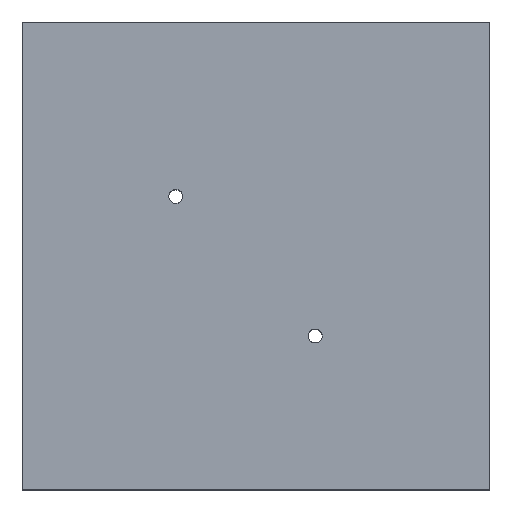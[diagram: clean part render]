
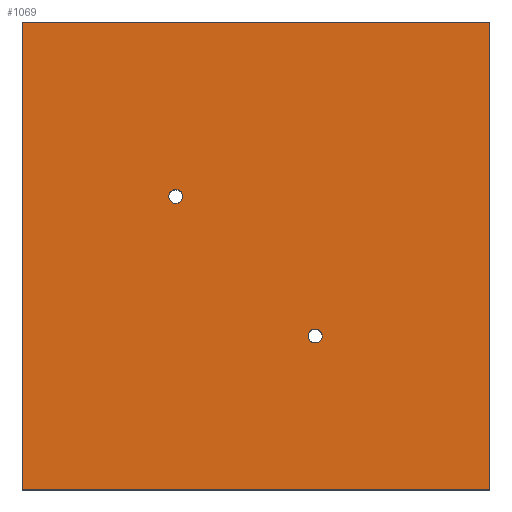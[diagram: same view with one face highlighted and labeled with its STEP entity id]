
A CAD part, top view. The second image highlights one B-rep face of the part: STEP entity #1069.
In plain terms, the highlighted planar face has unit normal (0, 0, 1).
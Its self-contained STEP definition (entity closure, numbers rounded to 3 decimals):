
#46 = CARTESIAN_POINT ( 'NONE',  ( 21., 42., 19. ) ) ;
#52 = DIRECTION ( 'NONE',  ( 1., 0., 0. ) ) ;
#70 = CIRCLE ( 'NONE', #591, 1. ) ;
#88 = EDGE_CURVE ( 'NONE', #910, #809, #916, .T. ) ;
#99 = VECTOR ( 'NONE', #384, 1000. ) ;
#116 = CARTESIAN_POINT ( 'NONE',  ( 0., 67., 19. ) ) ;
#123 = ORIENTED_EDGE ( 'NONE', *, *, #594, .T. ) ;
#124 = CARTESIAN_POINT ( 'NONE',  ( 42., 22., 19. ) ) ;
#144 = CARTESIAN_POINT ( 'NONE',  ( 0., 0., 19. ) ) ;
#150 = AXIS2_PLACEMENT_3D ( 'NONE', #124, #329, #753 ) ;
#154 = LINE ( 'NONE', #144, #935 ) ;
#208 = CIRCLE ( 'NONE', #622, 1. ) ;
#214 = LINE ( 'NONE', #116, #922 ) ;
#278 = ORIENTED_EDGE ( 'NONE', *, *, #901, .T. ) ;
#286 = ORIENTED_EDGE ( 'NONE', *, *, #312, .T. ) ;
#289 = CARTESIAN_POINT ( 'NONE',  ( 0., 0., 19. ) ) ;
#294 = CARTESIAN_POINT ( 'NONE',  ( 67., 0., 19. ) ) ;
#307 = EDGE_CURVE ( 'NONE', #775, #1198, #208, .T. ) ;
#312 = EDGE_CURVE ( 'NONE', #371, #859, #154, .T. ) ;
#314 = CIRCLE ( 'NONE', #1087, 1. ) ;
#329 = DIRECTION ( 'NONE',  ( 0., 0., 1. ) ) ;
#371 = VERTEX_POINT ( 'NONE', #542 ) ;
#384 = DIRECTION ( 'NONE',  ( 1., 0., 0. ) ) ;
#416 = CARTESIAN_POINT ( 'NONE',  ( 22., 42., 19. ) ) ;
#428 = DIRECTION ( 'NONE',  ( 0., 0., 1. ) ) ;
#446 = ORIENTED_EDGE ( 'NONE', *, *, #88, .F. ) ;
#452 = DIRECTION ( 'NONE',  ( 0., -1., 0. ) ) ;
#466 = ORIENTED_EDGE ( 'NONE', *, *, #985, .T. ) ;
#474 = CARTESIAN_POINT ( 'NONE',  ( 23., 42., 19. ) ) ;
#475 = CARTESIAN_POINT ( 'NONE',  ( 41., 22., 19. ) ) ;
#478 = EDGE_LOOP ( 'NONE', ( #286, #123, #278, #466 ) ) ;
#486 = ORIENTED_EDGE ( 'NONE', *, *, #1034, .F. ) ;
#520 = DIRECTION ( 'NONE',  ( -1., 0., 0. ) ) ;
#542 = CARTESIAN_POINT ( 'NONE',  ( 0., 67., 19. ) ) ;
#591 = AXIS2_PLACEMENT_3D ( 'NONE', #630, #428, #948 ) ;
#594 = EDGE_CURVE ( 'NONE', #859, #820, #716, .T. ) ;
#622 = AXIS2_PLACEMENT_3D ( 'NONE', #1083, #1283, #52 ) ;
#626 = VECTOR ( 'NONE', #704, 1000. ) ;
#630 = CARTESIAN_POINT ( 'NONE',  ( 42., 22., 19. ) ) ;
#672 = CARTESIAN_POINT ( 'NONE',  ( 67., 0., 19. ) ) ;
#696 = CARTESIAN_POINT ( 'NONE',  ( 0., 0., 19. ) ) ;
#704 = DIRECTION ( 'NONE',  ( 0., 1., 0. ) ) ;
#716 = LINE ( 'NONE', #696, #99 ) ;
#721 = CARTESIAN_POINT ( 'NONE',  ( 43., 22., 19. ) ) ;
#736 = FACE_OUTER_BOUND ( 'NONE', #478, .T. ) ;
#752 = ORIENTED_EDGE ( 'NONE', *, *, #989, .F. ) ;
#753 = DIRECTION ( 'NONE',  ( 1., 0., 0. ) ) ;
#775 = VERTEX_POINT ( 'NONE', #46 ) ;
#791 = EDGE_LOOP ( 'NONE', ( #889, #752 ) ) ;
#809 = VERTEX_POINT ( 'NONE', #475 ) ;
#820 = VERTEX_POINT ( 'NONE', #672 ) ;
#828 = DIRECTION ( 'NONE',  ( 0., 0., -1. ) ) ;
#829 = AXIS2_PLACEMENT_3D ( 'NONE', #951, #828, #943 ) ;
#836 = CARTESIAN_POINT ( 'NONE',  ( 67., 67., 19. ) ) ;
#859 = VERTEX_POINT ( 'NONE', #289 ) ;
#889 = ORIENTED_EDGE ( 'NONE', *, *, #307, .F. ) ;
#901 = EDGE_CURVE ( 'NONE', #820, #1101, #1033, .T. ) ;
#910 = VERTEX_POINT ( 'NONE', #721 ) ;
#916 = CIRCLE ( 'NONE', #150, 1. ) ;
#922 = VECTOR ( 'NONE', #520, 1000. ) ;
#935 = VECTOR ( 'NONE', #452, 1000. ) ;
#943 = DIRECTION ( 'NONE',  ( -1., 0., 0. ) ) ;
#948 = DIRECTION ( 'NONE',  ( 1., 0., 0. ) ) ;
#951 = CARTESIAN_POINT ( 'NONE',  ( 0., 0., 19. ) ) ;
#985 = EDGE_CURVE ( 'NONE', #1101, #371, #214, .T. ) ;
#989 = EDGE_CURVE ( 'NONE', #1198, #775, #314, .T. ) ;
#1033 = LINE ( 'NONE', #294, #626 ) ;
#1034 = EDGE_CURVE ( 'NONE', #809, #910, #70, .T. ) ;
#1069 = ADVANCED_FACE ( 'NONE', ( #736, #1146, #1162 ), #1348, .F. ) ;
#1083 = CARTESIAN_POINT ( 'NONE',  ( 22., 42., 19. ) ) ;
#1087 = AXIS2_PLACEMENT_3D ( 'NONE', #416, #1147, #1256 ) ;
#1101 = VERTEX_POINT ( 'NONE', #836 ) ;
#1146 = FACE_BOUND ( 'NONE', #791, .T. ) ;
#1147 = DIRECTION ( 'NONE',  ( 0., 0., 1. ) ) ;
#1162 = FACE_BOUND ( 'NONE', #1342, .T. ) ;
#1198 = VERTEX_POINT ( 'NONE', #474 ) ;
#1256 = DIRECTION ( 'NONE',  ( 1., 0., 0. ) ) ;
#1283 = DIRECTION ( 'NONE',  ( 0., 0., 1. ) ) ;
#1342 = EDGE_LOOP ( 'NONE', ( #486, #446 ) ) ;
#1348 = PLANE ( 'NONE',  #829 ) ;
